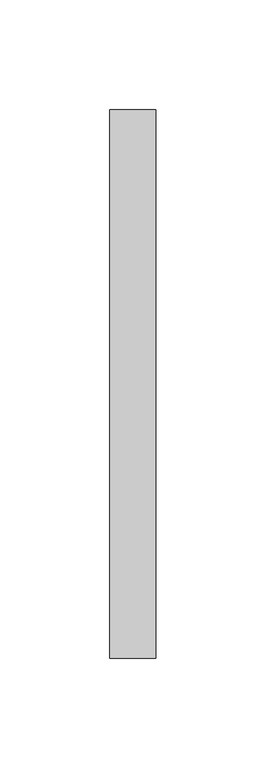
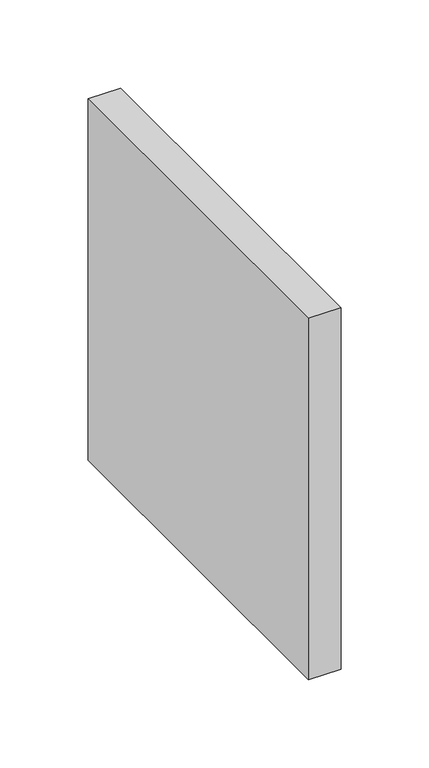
"""IFC4 building model written with IfcOpenShell, lengths in millimetres: duct fitting geometry, MEP_15.03 Injerto Conducte : Mínimo."""

from ifc_helpers import new_model, si_unit, frame, origin, place, context, project, spatial, polyline, outline, extrude, source, transform, mapped, element, save


def duct_fitting_7d22f88a(model_context):
    return source(origin(), model_context, "Body", "SweptSolid", [
        extrude(outline(polyline([(-6.096, 125.0), (15.0, 125.0), (15.0, -125.0), (-6.096, -125.0), (-6.096, 125.0)])), frame((0.0, 0.0, -125.0), z_axis=(0.0, 0.0, 1.0), x_axis=(1.0, 0.0, 0.0)), (0.0, 0.0, 1.0), 250.0),
    ])


if __name__ == "__main__":
    model = new_model("IFC4")
    model_context = context("Model", 3, world=origin())
    ifc_project = project(units=[si_unit("LENGTHUNIT", "METRE", prefix="MILLI")], contexts=[model_context])
    site = spatial("IfcSite", under=ifc_project)
    building = spatial("IfcBuilding", under=site)
    placement = place(None, origin())
    duct_fitting_shape = duct_fitting_7d22f88a(model_context)
    element("IfcDuctFitting", 1, ObjectType="MEP_15.03 Injerto Conducte : Mínimo", at=placement, inside=building, context=model_context, shape_type="MappedRepresentation", body=[
        mapped(duct_fitting_shape, transform((0.0, 0.0, 0.0), x_axis=(1.0, 0.0, 0.0), y_axis=(0.0, 1.0, 0.0), z_axis=(0.0, 0.0, 1.0))),
    ])
    save(model, "model.ifc")
